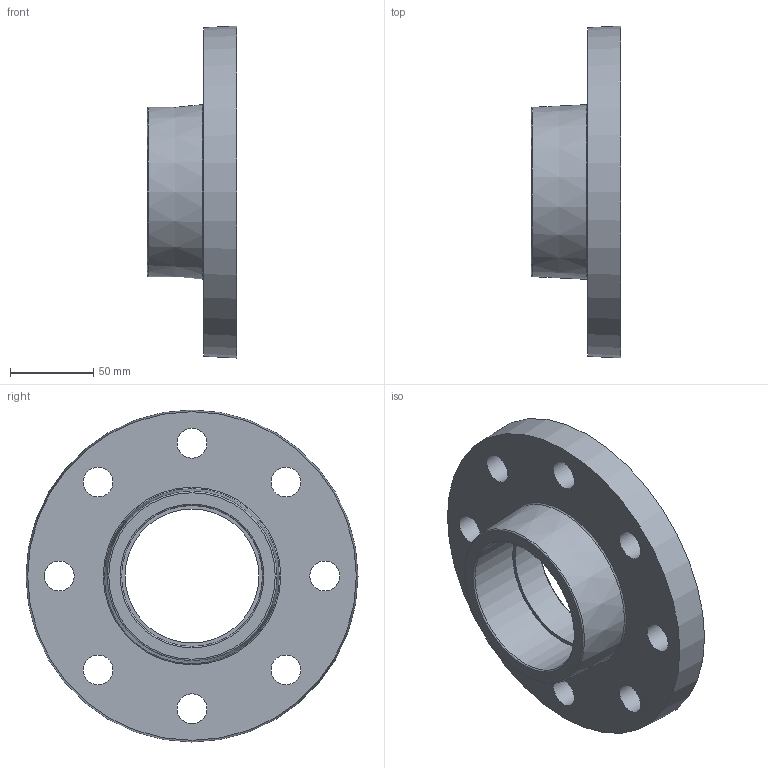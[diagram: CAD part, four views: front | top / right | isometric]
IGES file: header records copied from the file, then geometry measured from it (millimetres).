
Global section: file name: 059201030.ipt; native system: Autodesk Inventor 2015; preprocessor: unknown; author: KIM; date: 20171207.170015; units: millimetre
Bounding box: 54 x 200 x 200 mm (x, y, z)
Volume: 573329.4 mm3; surface area: 94406.2 mm2
Topology: 1 solids, 1 shells, 32 faces, 74 edges, 52 vertices
Faces by surface type: revolution 17, plane 10, cylinder 3, cone 2
Full cylindrical faces by diameter (mm): 84.378 x1, 88.378 x1, 92.378 x1
